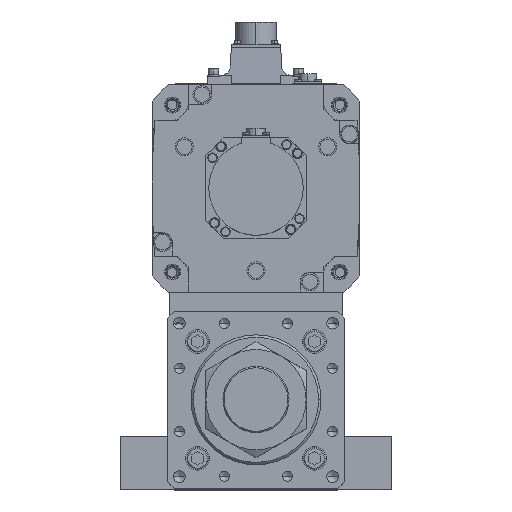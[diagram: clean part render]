
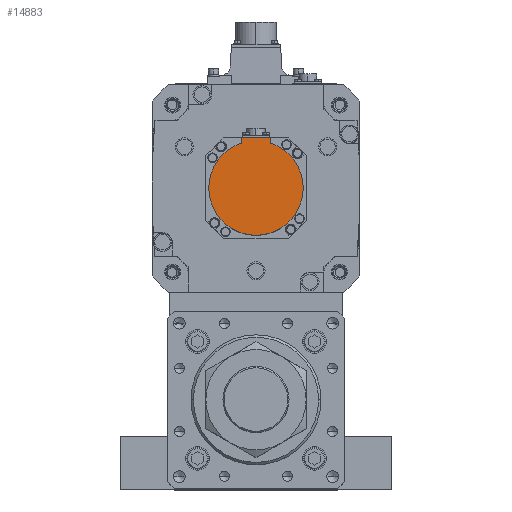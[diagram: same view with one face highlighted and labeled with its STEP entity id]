
A CAD part, top view. The second image highlights one B-rep face of the part: STEP entity #14883.
In plain terms, the highlighted planar face has unit normal (0, 0, 1) as drawn and (0, 0, -1) by its records, which use the part's own axes.
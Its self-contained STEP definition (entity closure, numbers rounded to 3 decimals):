
#780 = EDGE_CURVE ( 'NONE', #34418, #20712, #10366, .T. ) ;
#1373 = ORIENTED_EDGE ( 'NONE', *, *, #21666, .F. ) ;
#3836 = EDGE_CURVE ( 'NONE', #21060, #55883, #30994, .T. ) ;
#6981 = VERTEX_POINT ( 'NONE', #48304 ) ;
#7895 = CIRCLE ( 'NONE', #14145, 40. ) ;
#10366 = CIRCLE ( 'NONE', #11180, 40. ) ;
#11180 = AXIS2_PLACEMENT_3D ( 'NONE', #28010, #24057, #31959 ) ;
#11745 = CARTESIAN_POINT ( 'NONE',  ( -12., -38.158, -228. ) ) ;
#12256 = FACE_OUTER_BOUND ( 'NONE', #49207, .T. ) ;
#13494 = DIRECTION ( 'NONE',  ( 0., 0., 1. ) ) ;
#14145 = AXIS2_PLACEMENT_3D ( 'NONE', #47034, #17137, #42871 ) ;
#14690 = ORIENTED_EDGE ( 'NONE', *, *, #48412, .T. ) ;
#14883 = ADVANCED_FACE ( 'NONE', ( #12256 ), #18016, .F. ) ;
#15070 = DIRECTION ( 'NONE',  ( 0., 1., 0. ) ) ;
#17137 = DIRECTION ( 'NONE',  ( 0., 0., 1. ) ) ;
#17457 = CIRCLE ( 'NONE', #22507, 40. ) ;
#17791 = VECTOR ( 'NONE', #22991, 1000. ) ;
#18016 = PLANE ( 'NONE',  #20783 ) ;
#18297 = CARTESIAN_POINT ( 'NONE',  ( -12., -42.5, -228. ) ) ;
#19425 = CARTESIAN_POINT ( 'NONE',  ( 12., -42.5, -228. ) ) ;
#19751 = DIRECTION ( 'NONE',  ( -1., 0., 0. ) ) ;
#20712 = VERTEX_POINT ( 'NONE', #11745 ) ;
#20783 = AXIS2_PLACEMENT_3D ( 'NONE', #52627, #13494, #48283 ) ;
#21060 = VERTEX_POINT ( 'NONE', #19425 ) ;
#21666 = EDGE_CURVE ( 'NONE', #55883, #6981, #7895, .T. ) ;
#22507 = AXIS2_PLACEMENT_3D ( 'NONE', #43090, #34711, #43273 ) ;
#22991 = DIRECTION ( 'NONE',  ( 0., 1., 0. ) ) ;
#23436 = LINE ( 'NONE', #41302, #32874 ) ;
#24057 = DIRECTION ( 'NONE',  ( 0., 0., 1. ) ) ;
#24992 = ORIENTED_EDGE ( 'NONE', *, *, #25479, .T. ) ;
#25441 = VERTEX_POINT ( 'NONE', #18297 ) ;
#25479 = EDGE_CURVE ( 'NONE', #25441, #20712, #50972, .T. ) ;
#28010 = CARTESIAN_POINT ( 'NONE',  ( 0., 0., -228. ) ) ;
#28080 = CARTESIAN_POINT ( 'NONE',  ( -12., -40.329, -228. ) ) ;
#30994 = LINE ( 'NONE', #36600, #33723 ) ;
#31959 = DIRECTION ( 'NONE',  ( 1., 0., 0. ) ) ;
#32874 = VECTOR ( 'NONE', #19751, 1000. ) ;
#33723 = VECTOR ( 'NONE', #15070, 1000. ) ;
#34418 = VERTEX_POINT ( 'NONE', #42241 ) ;
#34711 = DIRECTION ( 'NONE',  ( 0., 0., 1. ) ) ;
#36600 = CARTESIAN_POINT ( 'NONE',  ( 12., -1.249, -228. ) ) ;
#37780 = CARTESIAN_POINT ( 'NONE',  ( 12., -38.158, -228. ) ) ;
#38317 = ORIENTED_EDGE ( 'NONE', *, *, #47529, .F. ) ;
#41302 = CARTESIAN_POINT ( 'NONE',  ( 0., -42.5, -228. ) ) ;
#42241 = CARTESIAN_POINT ( 'NONE',  ( -40., 0., -228. ) ) ;
#42871 = DIRECTION ( 'NONE',  ( 1., 0., 0. ) ) ;
#43090 = CARTESIAN_POINT ( 'NONE',  ( 0., 0., -228. ) ) ;
#43273 = DIRECTION ( 'NONE',  ( 1., 0., 0. ) ) ;
#47034 = CARTESIAN_POINT ( 'NONE',  ( 0., 0., -228. ) ) ;
#47529 = EDGE_CURVE ( 'NONE', #6981, #34418, #17457, .T. ) ;
#48283 = DIRECTION ( 'NONE',  ( 1., 0., 0. ) ) ;
#48304 = CARTESIAN_POINT ( 'NONE',  ( 40., 0., -228. ) ) ;
#48412 = EDGE_CURVE ( 'NONE', #21060, #25441, #23436, .T. ) ;
#49207 = EDGE_LOOP ( 'NONE', ( #24992, #51912, #38317, #1373, #52389, #14690 ) ) ;
#50972 = LINE ( 'NONE', #28080, #17791 ) ;
#51912 = ORIENTED_EDGE ( 'NONE', *, *, #780, .F. ) ;
#52389 = ORIENTED_EDGE ( 'NONE', *, *, #3836, .F. ) ;
#52627 = CARTESIAN_POINT ( 'NONE',  ( 0., -1.249, -228. ) ) ;
#55883 = VERTEX_POINT ( 'NONE', #37780 ) ;
